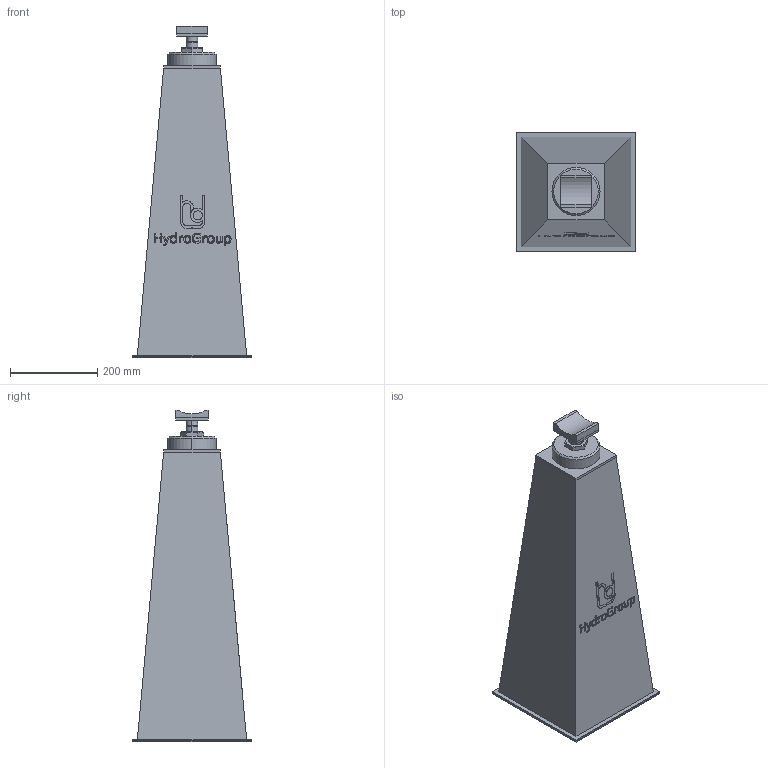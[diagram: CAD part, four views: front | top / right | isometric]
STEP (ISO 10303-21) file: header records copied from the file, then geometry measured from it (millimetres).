
FILE_DESCRIPTION(('STEP AP214'),'1');
FILE_NAME('RSRFE-I_DN100.stp','2018-06-27T12:27:55',(' '),(' '),'Spatial InterOp 3D',' ',' ');
FILE_SCHEMA(('automotive_design'));
Length unit declared in the file: millimetre
Products named in the file (6): 1; 2; 3; 4; 5; 6
Bounding box: 270 x 270 x 759 mm (x, y, z)
Volume: 25589073.1 mm3; surface area: 841868.3 mm2
Topology: 6 solids, 6 shells, 223 faces, 551 edges, 360 vertices
Faces by surface type: plane 145, cylinder 30, extrusion 24, cone 20, torus 4
Entity records: 8986 total; most frequent: CARTESIAN_POINT 1814, ORIENTED_EDGE 1102, DIRECTION 1013, EDGE_CURVE 551, VECTOR 427, LINE 403, VERTEX_POINT 360, AXIS2_PLACEMENT_3D 293
